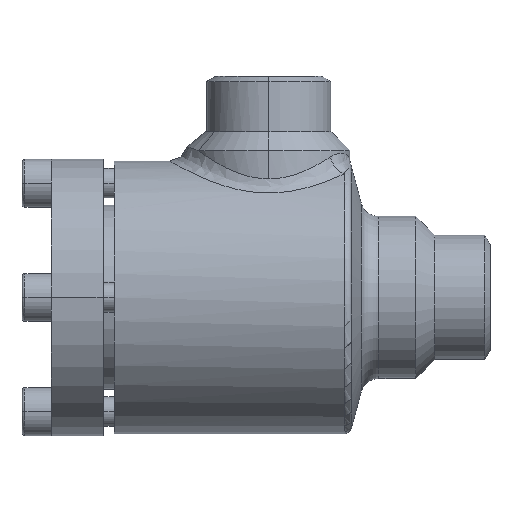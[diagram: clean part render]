
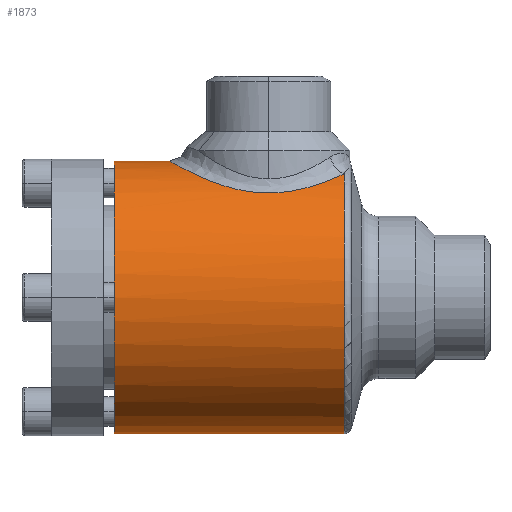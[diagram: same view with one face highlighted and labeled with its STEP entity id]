
A CAD part, left-side view. The second image highlights one B-rep face of the part: STEP entity #1873.
In plain terms, the highlighted cylindrical face has radius 37 mm (diameter 74 mm), a partial arc.
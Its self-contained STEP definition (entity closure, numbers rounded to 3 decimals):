
#54 = EDGE_CURVE ( 'NONE', #12571, #10374, #9987, .T. ) ;
#77 = CIRCLE ( 'NONE', #78, 37. ) ;
#78 = AXIS2_PLACEMENT_3D ( 'NONE', #79, #80, #81 ) ;
#79 = CARTESIAN_POINT ( 'NONE',  ( 0., 0., 0. ) ) ;
#80 = DIRECTION ( 'NONE',  ( 0., 1., 0. ) ) ;
#81 = DIRECTION ( 'NONE',  ( 0., 0., 1. ) ) ;
#86 = CIRCLE ( 'NONE', #87, 37. ) ;
#87 = AXIS2_PLACEMENT_3D ( 'NONE', #88, #89, #90 ) ;
#88 = CARTESIAN_POINT ( 'NONE',  ( 0., -62.446, 0. ) ) ;
#89 = DIRECTION ( 'NONE',  ( 0., 1., 0. ) ) ;
#90 = DIRECTION ( 'NONE',  ( 0., 0., -1. ) ) ;
#490 = EDGE_CURVE ( 'NONE', #9821, #10876, #86, .T. ) ;
#824 = ORIENTED_EDGE ( 'NONE', *, *, #490, .T. ) ;
#1023 = CARTESIAN_POINT ( 'NONE',  ( 0., 0., -37. ) ) ;
#1215 = LINE ( 'NONE', #1216, #1217 ) ;
#1216 = CARTESIAN_POINT ( 'NONE',  ( 0., -68., -37. ) ) ;
#1217 = VECTOR ( 'NONE', #1218, 1000. ) ;
#1218 = DIRECTION ( 'NONE',  ( 0., 1., 0. ) ) ;
#1298 = ORIENTED_EDGE ( 'NONE', *, *, #12119, .F. ) ;
#1385 = B_SPLINE_CURVE_WITH_KNOTS ( 'NONE', 3,
 ( #1386, #1387, #1388, #1389, #1390, #1391, #1392, #1393, #1394, #1395, #1396, #1398, #1399, #1400, #1401, #1402, #1403, #1404, #1405, #1406, #1407, #1408, #1409, #1410, #1411, #1412, #1413, #1418, #1419, #1420, #1421, #1422, #1423, #1424, #1425, #1426, #1427, #1428, #1429, #1430, #1431, #1432, #1433, #1435, #1436, #1437, #1438, #1439 ),
 .UNSPECIFIED., .F., .F.,
 ( 4, 2, 2, 2, 2, 2, 2, 2, 2, 2, 2, 2, 2, 2, 2, 2, 2, 2, 2, 2, 2, 2, 2, 4 ),
 ( 0., 0.004, 0.008, 0.01, 0.012, 0.016, 0.018, 0.02, 0.024, 0.026, 0.028, 0.03, 0.032, 0.036, 0.04, 0.042, 0.044, 0.048, 0.05, 0.052, 0.056, 0.058, 0.06, 0.064 ),
 .UNSPECIFIED. ) ;
#1386 = CARTESIAN_POINT ( 'NONE',  ( -15.535, -62.446, 33.581 ) ) ;
#1387 = CARTESIAN_POINT ( 'NONE',  ( -16.452, -61.548, 33.157 ) ) ;
#1388 = CARTESIAN_POINT ( 'NONE',  ( -17.286, -60.594, 32.725 ) ) ;
#1389 = CARTESIAN_POINT ( 'NONE',  ( -18.811, -58.577, 31.873 ) ) ;
#1390 = CARTESIAN_POINT ( 'NONE',  ( -19.502, -57.514, 31.452 ) ) ;
#1391 = CARTESIAN_POINT ( 'NONE',  ( -20.434, -55.835, 30.848 ) ) ;
#1392 = CARTESIAN_POINT ( 'NONE',  ( -20.728, -55.259, 30.65 ) ) ;
#1393 = CARTESIAN_POINT ( 'NONE',  ( -21.277, -54.088, 30.272 ) ) ;
#1394 = CARTESIAN_POINT ( 'NONE',  ( -21.531, -53.494, 30.092 ) ) ;
#1395 = CARTESIAN_POINT ( 'NONE',  ( -22.233, -51.685, 29.581 ) ) ;
#1396 = CARTESIAN_POINT ( 'NONE',  ( -22.624, -50.442, 29.28 ) ) ;
#1398 = CARTESIAN_POINT ( 'NONE',  ( -23.09, -48.518, 28.912 ) ) ;
#1399 = CARTESIAN_POINT ( 'NONE',  ( -23.225, -47.864, 28.803 ) ) ;
#1400 = CARTESIAN_POINT ( 'NONE',  ( -23.453, -46.548, 28.618 ) ) ;
#1401 = CARTESIAN_POINT ( 'NONE',  ( -23.545, -45.887, 28.542 ) ) ;
#1402 = CARTESIAN_POINT ( 'NONE',  ( -23.756, -43.897, 28.367 ) ) ;
#1403 = CARTESIAN_POINT ( 'NONE',  ( -23.81, -42.56, 28.321 ) ) ;
#1404 = CARTESIAN_POINT ( 'NONE',  ( -23.758, -40.538, 28.365 ) ) ;
#1405 = CARTESIAN_POINT ( 'NONE',  ( -23.718, -39.862, 28.398 ) ) ;
#1406 = CARTESIAN_POINT ( 'NONE',  ( -23.596, -38.528, 28.5 ) ) ;
#1407 = CARTESIAN_POINT ( 'NONE',  ( -23.513, -37.867, 28.569 ) ) ;
#1408 = CARTESIAN_POINT ( 'NONE',  ( -23.304, -36.555, 28.739 ) ) ;
#1409 = CARTESIAN_POINT ( 'NONE',  ( -23.179, -35.905, 28.84 ) ) ;
#1410 = CARTESIAN_POINT ( 'NONE',  ( -22.886, -34.615, 29.073 ) ) ;
#1411 = CARTESIAN_POINT ( 'NONE',  ( -22.718, -33.974, 29.205 ) ) ;
#1412 = CARTESIAN_POINT ( 'NONE',  ( -22.153, -32.08, 29.639 ) ) ;
#1413 = CARTESIAN_POINT ( 'NONE',  ( -21.7, -30.866, 29.975 ) ) ;
#1418 = CARTESIAN_POINT ( 'NONE',  ( -20.645, -28.526, 30.712 ) ) ;
#1419 = CARTESIAN_POINT ( 'NONE',  ( -20.043, -27.4, 31.112 ) ) ;
#1420 = CARTESIAN_POINT ( 'NONE',  ( -19.02, -25.773, 31.74 ) ) ;
#1421 = CARTESIAN_POINT ( 'NONE',  ( -18.66, -25.243, 31.953 ) ) ;
#1422 = CARTESIAN_POINT ( 'NONE',  ( -17.908, -24.217, 32.381 ) ) ;
#1423 = CARTESIAN_POINT ( 'NONE',  ( -17.515, -23.72, 32.595 ) ) ;
#1424 = CARTESIAN_POINT ( 'NONE',  ( -16.284, -22.274, 33.237 ) ) ;
#1425 = CARTESIAN_POINT ( 'NONE',  ( -15.395, -21.372, 33.662 ) ) ;
#1426 = CARTESIAN_POINT ( 'NONE',  ( -13.943, -20.115, 34.276 ) ) ;
#1427 = CARTESIAN_POINT ( 'NONE',  ( -13.437, -19.71, 34.478 ) ) ;
#1428 = CARTESIAN_POINT ( 'NONE',  ( -12.398, -18.947, 34.865 ) ) ;
#1429 = CARTESIAN_POINT ( 'NONE',  ( -11.864, -18.588, 35.051 ) ) ;
#1430 = CARTESIAN_POINT ( 'NONE',  ( -10.215, -17.575, 35.581 ) ) ;
#1431 = CARTESIAN_POINT ( 'NONE',  ( -9.054, -16.989, 35.897 ) ) ;
#1432 = CARTESIAN_POINT ( 'NONE',  ( -7.207, -16.258, 36.297 ) ) ;
#1433 = CARTESIAN_POINT ( 'NONE',  ( -6.575, -16.041, 36.417 ) ) ;
#1435 = CARTESIAN_POINT ( 'NONE',  ( -5.29, -15.666, 36.626 ) ) ;
#1436 = CARTESIAN_POINT ( 'NONE',  ( -4.64, -15.508, 36.714 ) ) ;
#1437 = CARTESIAN_POINT ( 'NONE',  ( -2.677, -15.129, 36.926 ) ) ;
#1438 = CARTESIAN_POINT ( 'NONE',  ( -1.349, -15., 37. ) ) ;
#1439 = CARTESIAN_POINT ( 'NONE',  ( 0., -15., 37. ) ) ;
#1609 = FACE_OUTER_BOUND ( 'NONE', #1771, .T. ) ;
#1610 = CYLINDRICAL_SURFACE ( 'NONE', #1611, 37. ) ;
#1611 = AXIS2_PLACEMENT_3D ( 'NONE', #1612, #1613, #1614 ) ;
#1612 = CARTESIAN_POINT ( 'NONE',  ( 0., -68., 0. ) ) ;
#1613 = DIRECTION ( 'NONE',  ( 0., 1., 0. ) ) ;
#1614 = DIRECTION ( 'NONE',  ( 0., 0., 1. ) ) ;
#1771 = EDGE_LOOP ( 'NONE', ( #1298, #824, #10408, #9956, #9933 ) ) ;
#1873 = ADVANCED_FACE ( 'NONE', ( #1609 ), #1610, .T. ) ;
#9109 = CARTESIAN_POINT ( 'NONE',  ( 0., 0., 37. ) ) ;
#9142 = CARTESIAN_POINT ( 'NONE',  ( 0., -15., 37. ) ) ;
#9390 = CARTESIAN_POINT ( 'NONE',  ( -15.535, -62.446, 33.581 ) ) ;
#9515 = CARTESIAN_POINT ( 'NONE',  ( 0., -62.446, -37. ) ) ;
#9821 = VERTEX_POINT ( 'NONE', #9515 ) ;
#9914 = EDGE_CURVE ( 'NONE', #11918, #10374, #77, .T. ) ;
#9933 = ORIENTED_EDGE ( 'NONE', *, *, #9914, .F. ) ;
#9956 = ORIENTED_EDGE ( 'NONE', *, *, #54, .T. ) ;
#9987 = LINE ( 'NONE', #9988, #9989 ) ;
#9988 = CARTESIAN_POINT ( 'NONE',  ( 0., -68., 37. ) ) ;
#9989 = VECTOR ( 'NONE', #9992, 1000. ) ;
#9992 = DIRECTION ( 'NONE',  ( 0., 1., 0. ) ) ;
#10074 = EDGE_CURVE ( 'NONE', #10876, #12571, #1385, .T. ) ;
#10374 = VERTEX_POINT ( 'NONE', #9109 ) ;
#10408 = ORIENTED_EDGE ( 'NONE', *, *, #10074, .T. ) ;
#10876 = VERTEX_POINT ( 'NONE', #9390 ) ;
#11918 = VERTEX_POINT ( 'NONE', #1023 ) ;
#12119 = EDGE_CURVE ( 'NONE', #9821, #11918, #1215, .T. ) ;
#12571 = VERTEX_POINT ( 'NONE', #9142 ) ;
